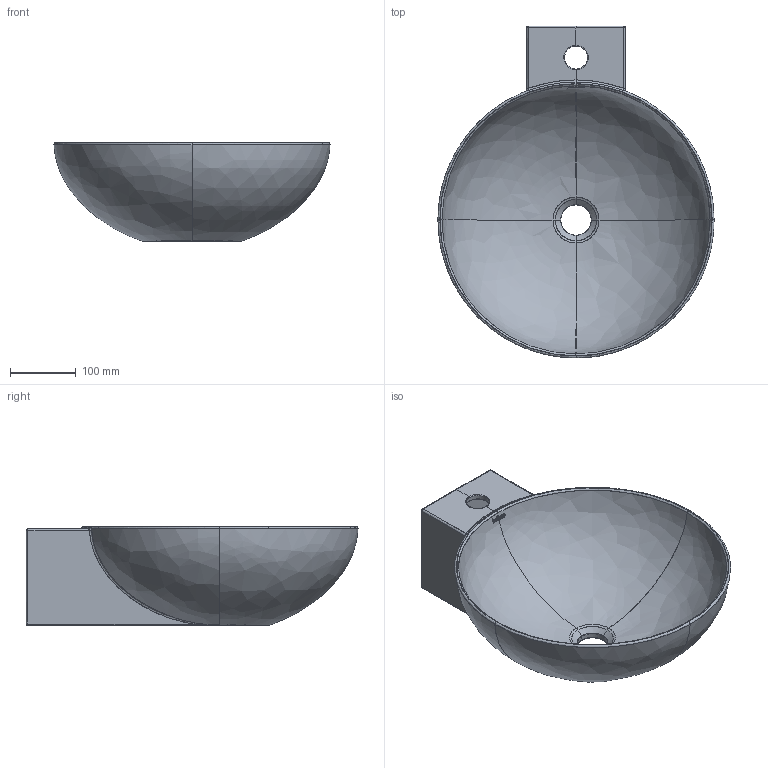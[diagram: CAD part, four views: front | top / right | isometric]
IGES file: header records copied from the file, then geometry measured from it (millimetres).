
Global section: file name: D:\Renovando Conceptos\Trabajos Varios\BathCo\47 Biblioteca Lavabos 3D\0028_Bayona\0028_BAYONA.igs; native system: Rhinoceros ( May  7 2021 ); preprocessor: Trout Lake IGES 012 May  7 2021; date: 221222.084304; units: millimetre
Bounding box: 420.01 x 504.88 x 150 mm (x, y, z)
Surface area: 576763.9 mm2 (no closed solid volume)
Topology: 0 solids, 0 shells, 209 faces, 1339 edges, 1336 vertices
Faces by surface type: bspline 209
